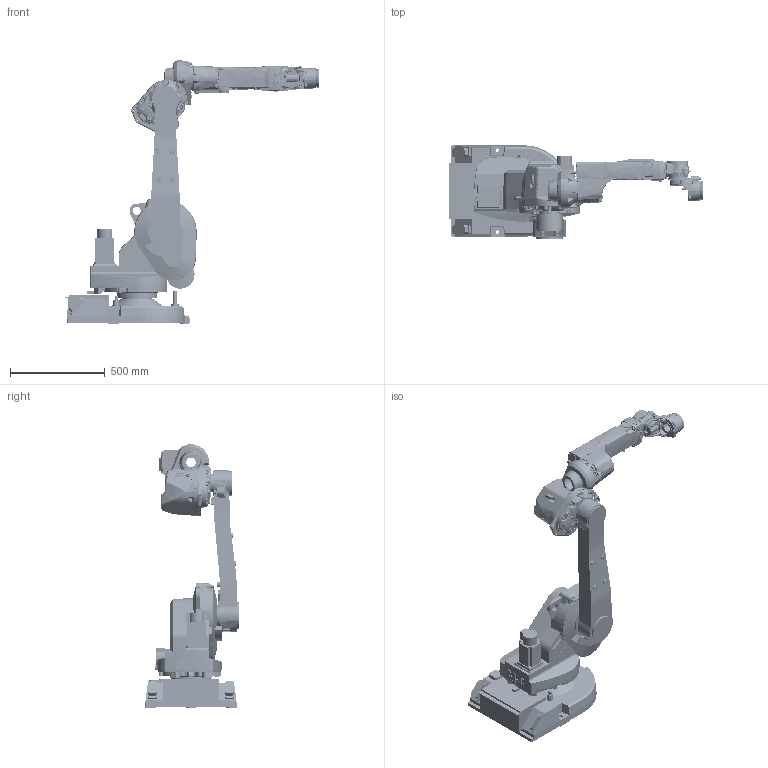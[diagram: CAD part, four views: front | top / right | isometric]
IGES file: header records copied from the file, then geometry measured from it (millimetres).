
Start section: SolidWorks IGES file using analytic representation for surfaces
Global section: file name: C:\Project\1660ID\RibCAD\IRB1600ID_X_155\NB\web formats_1660\IRB 1660ID_6-155_IRC5_rev0_IGES_c\IRB1660ID_6-155.IGS; native system: SolidWorks 2014; preprocessor: SolidWorks 2014; author: CNJISHA2; date: 160419.122522; units: millimetre
Bounding box: 1345.26 x 494.27 x 1391.98 mm (x, y, z)
Surface area: 3442620.7 mm2 (no closed solid volume)
Topology: 0 solids, 0 shells, 3831 faces, 47153 edges, 47059 vertices
Faces by surface type: bspline 2567, revolution 1264
